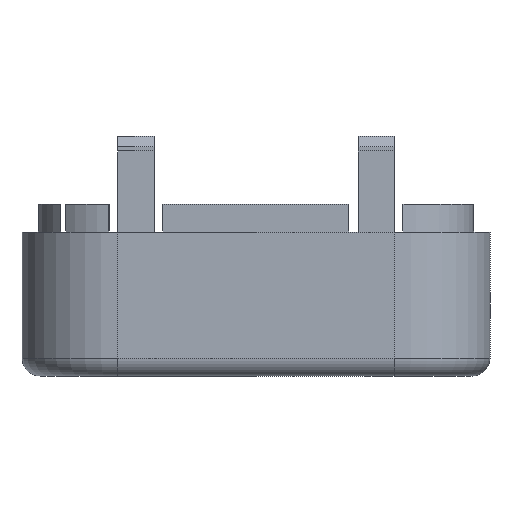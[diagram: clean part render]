
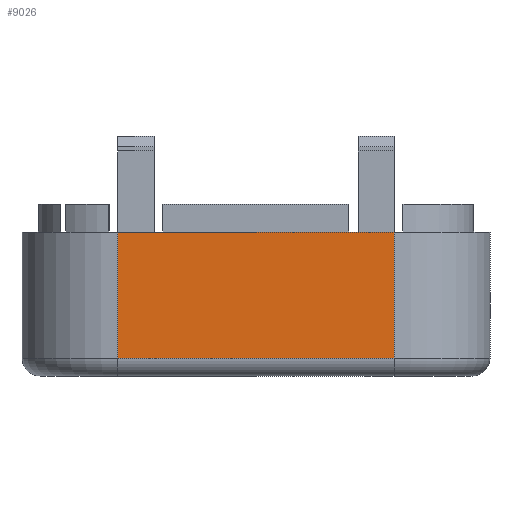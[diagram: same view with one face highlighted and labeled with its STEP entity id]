
A CAD part, left-side view. The second image highlights one B-rep face of the part: STEP entity #9026.
In plain terms, the highlighted planar face has unit normal (-1, 0, 0).
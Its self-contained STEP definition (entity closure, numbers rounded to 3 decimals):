
#1446 = PLANE('',#1447);
#1447 = AXIS2_PLACEMENT_3D('',#1448,#1449,#1450);
#1448 = CARTESIAN_POINT('',(-100.,-100.,24.));
#1449 = DIRECTION('',(0.,0.,1.));
#1450 = DIRECTION('',(1.,0.,0.));
#3925 = VERTEX_POINT('',#3926);
#3926 = CARTESIAN_POINT('',(-45.,23.,24.));
#3941 = CYLINDRICAL_SURFACE('',#3942,16.);
#3942 = AXIS2_PLACEMENT_3D('',#3943,#3944,#3945);
#3943 = CARTESIAN_POINT('',(-29.,23.,0.));
#3944 = DIRECTION('',(0.,0.,1.));
#3945 = DIRECTION('',(-1.,-0.,0.));
#3953 = EDGE_CURVE('',#3925,#3954,#3956,.T.);
#3954 = VERTEX_POINT('',#3955);
#3955 = CARTESIAN_POINT('',(-45.,-23.,24.));
#3956 = SURFACE_CURVE('',#3957,(#3961,#3968),.PCURVE_S1.);
#3957 = LINE('',#3958,#3959);
#3958 = CARTESIAN_POINT('',(-45.,-69.5,24.));
#3959 = VECTOR('',#3960,1.);
#3960 = DIRECTION('',(0.,-1.,0.));
#3961 = PCURVE('',#1446,#3962);
#3962 = DEFINITIONAL_REPRESENTATION('',(#3963),#3967);
#3963 = LINE('',#3964,#3965);
#3964 = CARTESIAN_POINT('',(55.,30.5));
#3965 = VECTOR('',#3966,1.);
#3966 = DIRECTION('',(0.,-1.));
#3967 = ( GEOMETRIC_REPRESENTATION_CONTEXT(2) 
PARAMETRIC_REPRESENTATION_CONTEXT() REPRESENTATION_CONTEXT('2D SPACE',''
  ) );
#3968 = PCURVE('',#3969,#3974);
#3969 = PLANE('',#3970);
#3970 = AXIS2_PLACEMENT_3D('',#3971,#3972,#3973);
#3971 = CARTESIAN_POINT('',(-45.,-39.,0.));
#3972 = DIRECTION('',(1.,0.,0.));
#3973 = DIRECTION('',(0.,0.,1.));
#3974 = DEFINITIONAL_REPRESENTATION('',(#3975),#3978);
#3975 = B_SPLINE_CURVE_WITH_KNOTS('',1,(#3976,#3977),.UNSPECIFIED.,.F.,
  .F.,(2,2),(-92.5,-46.5),.PIECEWISE_BEZIER_KNOTS.);
#3976 = CARTESIAN_POINT('',(24.,-62.));
#3977 = CARTESIAN_POINT('',(24.,-16.));
#3978 = ( GEOMETRIC_REPRESENTATION_CONTEXT(2) 
PARAMETRIC_REPRESENTATION_CONTEXT() REPRESENTATION_CONTEXT('2D SPACE',''
  ) );
#3997 = CYLINDRICAL_SURFACE('',#3998,16.);
#3998 = AXIS2_PLACEMENT_3D('',#3999,#4000,#4001);
#3999 = CARTESIAN_POINT('',(-29.,-23.,0.));
#4000 = DIRECTION('',(0.,0.,1.));
#4001 = DIRECTION('',(-1.,-0.,0.));
#8975 = EDGE_CURVE('',#8976,#3925,#8978,.T.);
#8976 = VERTEX_POINT('',#8977);
#8977 = CARTESIAN_POINT('',(-45.,23.,3.));
#8978 = SURFACE_CURVE('',#8979,(#8983,#8990),.PCURVE_S1.);
#8979 = LINE('',#8980,#8981);
#8980 = CARTESIAN_POINT('',(-45.,23.,0.));
#8981 = VECTOR('',#8982,1.);
#8982 = DIRECTION('',(0.,0.,1.));
#8983 = PCURVE('',#3941,#8984);
#8984 = DEFINITIONAL_REPRESENTATION('',(#8985),#8989);
#8985 = LINE('',#8986,#8987);
#8986 = CARTESIAN_POINT('',(-0.,0.));
#8987 = VECTOR('',#8988,1.);
#8988 = DIRECTION('',(-0.,1.));
#8989 = ( GEOMETRIC_REPRESENTATION_CONTEXT(2) 
PARAMETRIC_REPRESENTATION_CONTEXT() REPRESENTATION_CONTEXT('2D SPACE',''
  ) );
#8990 = PCURVE('',#3969,#8991);
#8991 = DEFINITIONAL_REPRESENTATION('',(#8992),#8996);
#8992 = LINE('',#8993,#8994);
#8993 = CARTESIAN_POINT('',(0.,-62.));
#8994 = VECTOR('',#8995,1.);
#8995 = DIRECTION('',(1.,0.));
#8996 = ( GEOMETRIC_REPRESENTATION_CONTEXT(2) 
PARAMETRIC_REPRESENTATION_CONTEXT() REPRESENTATION_CONTEXT('2D SPACE',''
  ) );
#9026 = ADVANCED_FACE('',(#9027),#3969,.F.);
#9027 = FACE_BOUND('',#9028,.F.);
#9028 = EDGE_LOOP('',(#9029,#9052,#9078,#9079));
#9029 = ORIENTED_EDGE('',*,*,#9030,.F.);
#9030 = EDGE_CURVE('',#9031,#3954,#9033,.T.);
#9031 = VERTEX_POINT('',#9032);
#9032 = CARTESIAN_POINT('',(-45.,-23.,3.));
#9033 = SURFACE_CURVE('',#9034,(#9038,#9045),.PCURVE_S1.);
#9034 = LINE('',#9035,#9036);
#9035 = CARTESIAN_POINT('',(-45.,-23.,0.));
#9036 = VECTOR('',#9037,1.);
#9037 = DIRECTION('',(0.,0.,1.));
#9038 = PCURVE('',#3969,#9039);
#9039 = DEFINITIONAL_REPRESENTATION('',(#9040),#9044);
#9040 = LINE('',#9041,#9042);
#9041 = CARTESIAN_POINT('',(0.,-16.));
#9042 = VECTOR('',#9043,1.);
#9043 = DIRECTION('',(1.,0.));
#9044 = ( GEOMETRIC_REPRESENTATION_CONTEXT(2) 
PARAMETRIC_REPRESENTATION_CONTEXT() REPRESENTATION_CONTEXT('2D SPACE',''
  ) );
#9045 = PCURVE('',#3997,#9046);
#9046 = DEFINITIONAL_REPRESENTATION('',(#9047),#9051);
#9047 = LINE('',#9048,#9049);
#9048 = CARTESIAN_POINT('',(0.,0.));
#9049 = VECTOR('',#9050,1.);
#9050 = DIRECTION('',(0.,1.));
#9051 = ( GEOMETRIC_REPRESENTATION_CONTEXT(2) 
PARAMETRIC_REPRESENTATION_CONTEXT() REPRESENTATION_CONTEXT('2D SPACE',''
  ) );
#9052 = ORIENTED_EDGE('',*,*,#9053,.T.);
#9053 = EDGE_CURVE('',#9031,#8976,#9054,.T.);
#9054 = SURFACE_CURVE('',#9055,(#9059,#9066),.PCURVE_S1.);
#9055 = LINE('',#9056,#9057);
#9056 = CARTESIAN_POINT('',(-45.,-23.,3.));
#9057 = VECTOR('',#9058,1.);
#9058 = DIRECTION('',(0.,1.,0.));
#9059 = PCURVE('',#3969,#9060);
#9060 = DEFINITIONAL_REPRESENTATION('',(#9061),#9065);
#9061 = LINE('',#9062,#9063);
#9062 = CARTESIAN_POINT('',(3.,-16.));
#9063 = VECTOR('',#9064,1.);
#9064 = DIRECTION('',(0.,-1.));
#9065 = ( GEOMETRIC_REPRESENTATION_CONTEXT(2) 
PARAMETRIC_REPRESENTATION_CONTEXT() REPRESENTATION_CONTEXT('2D SPACE',''
  ) );
#9066 = PCURVE('',#9067,#9072);
#9067 = CYLINDRICAL_SURFACE('',#9068,3.);
#9068 = AXIS2_PLACEMENT_3D('',#9069,#9070,#9071);
#9069 = CARTESIAN_POINT('',(-42.,-23.,3.));
#9070 = DIRECTION('',(0.,1.,0.));
#9071 = DIRECTION('',(-1.,0.,0.));
#9072 = DEFINITIONAL_REPRESENTATION('',(#9073),#9077);
#9073 = LINE('',#9074,#9075);
#9074 = CARTESIAN_POINT('',(-0.,0.));
#9075 = VECTOR('',#9076,1.);
#9076 = DIRECTION('',(-0.,1.));
#9077 = ( GEOMETRIC_REPRESENTATION_CONTEXT(2) 
PARAMETRIC_REPRESENTATION_CONTEXT() REPRESENTATION_CONTEXT('2D SPACE',''
  ) );
#9078 = ORIENTED_EDGE('',*,*,#8975,.T.);
#9079 = ORIENTED_EDGE('',*,*,#3953,.T.);
